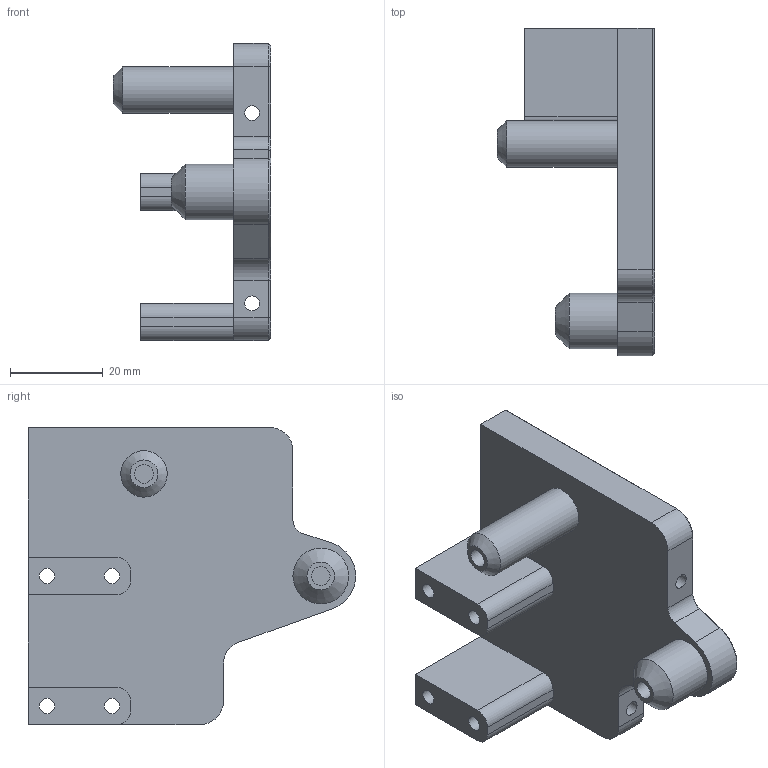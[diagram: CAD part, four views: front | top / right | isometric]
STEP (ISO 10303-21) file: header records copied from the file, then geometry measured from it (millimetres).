
FILE_DESCRIPTION(/* description */ (''),/* implementation_level */ '2;1');
FILE_NAME(/* name */ 'X:\Develop\CAD\NakataOmni\DriveUnitR3\WheelFrameAB_A.stp',/* time_stamp */ '2024-05-26T16:31:18+09:00',/* author */ ('kumagai'),/* organization */ (''),/* preprocessor_version */ 'ST-DEVELOPER v19',/* originating_system */ 'Autodesk Inventor 2023',/* authorisation */ '');
FILE_SCHEMA (('AUTOMOTIVE_DESIGN { 1 0 10303 214 3 1 1 }'));
Length unit declared in the file: millimetre
Products named in the file (1): WheelFrameAB-A
Bounding box: 33.9 x 70.48 x 64 mm (x, y, z)
Volume: 36172.2 mm3; surface area: 15260.7 mm2
Topology: 1 solids, 1 shells, 52 faces, 126 edges, 80 vertices
Faces by surface type: plane 26, cylinder 19, cone 7
Full cylindrical faces by diameter (mm): 3.2 x2, 3.3 x4, 4 x2, 10 x1, 12 x1
Entity records: 1586 total; most frequent: DIRECTION 277, CARTESIAN_POINT 259, ORIENTED_EDGE 252, EDGE_CURVE 126, AXIS2_PLACEMENT_3D 98, LINE 81, VECTOR 81, VERTEX_POINT 80
